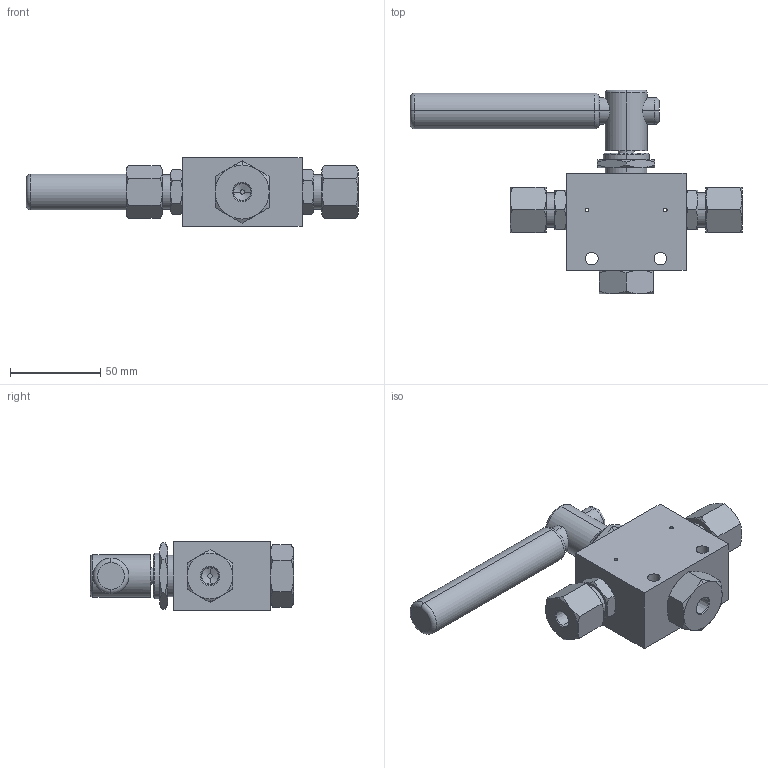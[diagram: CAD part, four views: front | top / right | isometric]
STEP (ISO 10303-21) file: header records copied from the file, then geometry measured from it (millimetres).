
FILE_DESCRIPTION (( 'STEP AP203' ), '1' );
FILE_NAME ('BVP03S02-3-180.STEP', '2022-04-12T10:45:30', ( '' ), ( '' ), 'SwSTEP 2.0', 'SolidWorks 2020', '' );
FILE_SCHEMA (( 'CONFIG_CONTROL_DESIGN' ));
Length unit declared in the file: millimetre
Products named in the file (1): BVP03S02-3-180
Bounding box: 184.33 x 113 x 38 mm (x, y, z)
Volume: 226736.8 mm3; surface area: 39559.4 mm2
Topology: 1 solids, 1 shells, 211 faces, 460 edges, 266 vertices
Faces by surface type: cone 108, plane 59, cylinder 36, torus 8
Entity records: 6431 total; most frequent: CARTESIAN_POINT 1922, DIRECTION 920, ORIENTED_EDGE 912, EDGE_CURVE 456, AXIS2_PLACEMENT_3D 400, VERTEX_POINT 266, EDGE_LOOP 238, FACE_OUTER_BOUND 211
